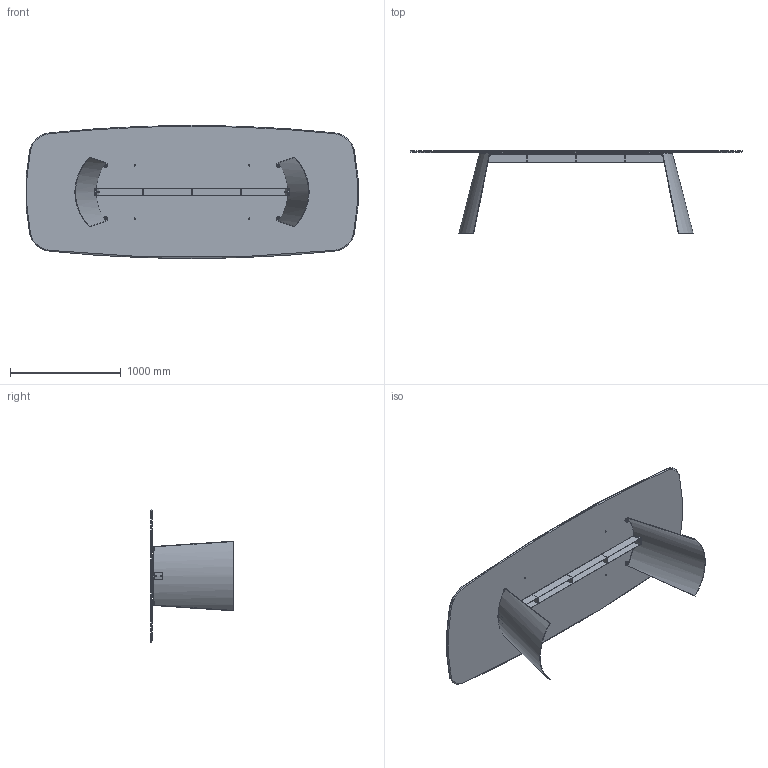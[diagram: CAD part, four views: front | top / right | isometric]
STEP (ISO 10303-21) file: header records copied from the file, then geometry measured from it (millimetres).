
FILE_DESCRIPTION (( 'STEP AP203' ), '1' );
FILE_NAME ('DN44C.STEP', '2024-08-07T15:11:43', ( '' ), ( '' ), 'SwSTEP 2.0', 'SolidWorks 2022', '' );
FILE_SCHEMA (( 'CONFIG_CONTROL_DESIGN' ));
Length unit declared in the file: millimetre
Products named in the file (14): DNB300000_03-02-PIASTRINA; GRANO M8X35_barra; rondella M8X24; DNB300000_02-02-RISCONTRO STANGONE CENTRALE; DN44C; feltro Ø12x3; 434070-00-PIEDINO TPV GOMMA NERO D. 30x8max18; K4XCMXX-00-Piani Sagomati in ceramica_3000 x 1200; nut_M8_M8; SDNB300000-02-GAMBA X TRASP; rondella M8_8X16; DNB400000-02-ASSIEME STRUTTURA COMPLETA_L.1770; DNB300000_01-02-GAMBA DORIAN; DNBX00000-01-DORIAN TRAVERSO LXXXX PER TAVOLO LX00_L.1770
Assembly tree (37 placements, depth 4):
  DN44C
    K4XCMXX-00-Piani Sagomati in ceramica_3000 x 1200
    DNB400000-02-ASSIEME STRUTTURA COMPLETA_L.1770
      SDNB300000-02-GAMBA X TRASP  x2
        DNB300000_01-02-GAMBA DORIAN
        DNB300000_02-02-RISCONTRO STANGONE CENTRALE
        DNB300000_03-02-PIASTRINA
      DNBX00000-01-DORIAN TRAVERSO LXXXX PER TAVOLO LX00_L.1770
    434070-00-PIEDINO TPV GOMMA NERO D. 30x8max18  x4
    nut_M8_M8  x8
    rondella M8X24  x4
    GRANO M8X35_barra  x4
    rondella M8_8X16  x4
    feltro Ø12x3  x4
Bounding box: 2991.72 x 746 x 1200 mm (x, y, z)
Volume: 59580014.7 mm3; surface area: 16300054 mm2
Topology: 48 solids, 48 shells, 639 faces, 1493 edges, 950 vertices
Faces by surface type: plane 264, cylinder 188, cone 89, torus 80, bspline 18
Entity records: 11916 total; most frequent: CARTESIAN_POINT 2301, DIRECTION 1622, ORIENTED_EDGE 1518, EDGE_CURVE 759, AXIS2_PLACEMENT_3D 587, VERTEX_POINT 494, LINE 448, VECTOR 448
